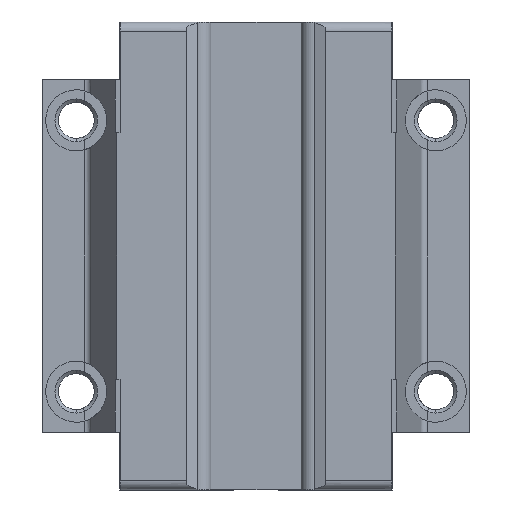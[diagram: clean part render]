
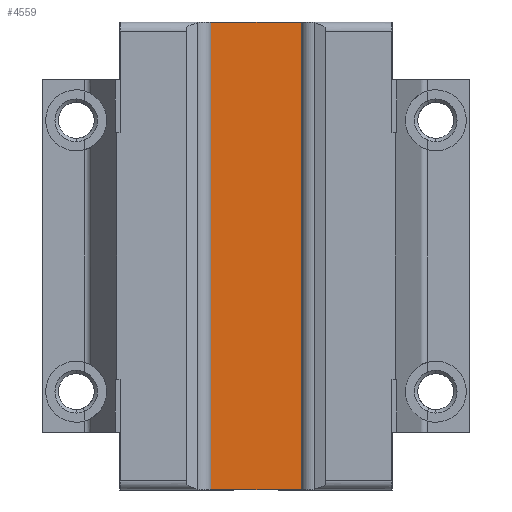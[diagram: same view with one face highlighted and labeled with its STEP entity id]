
A CAD part, front view. The second image highlights one B-rep face of the part: STEP entity #4559.
In plain terms, the highlighted planar face has unit normal (0, -1, 0).
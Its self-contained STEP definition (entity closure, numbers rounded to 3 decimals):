
#1187 = DIRECTION ( 'NONE',  ( 0., 0., 1. ) ) ;
#1208 = CARTESIAN_POINT ( 'NONE',  ( 7.255, -9.695, -34.5 ) ) ;
#1273 = DIRECTION ( 'NONE',  ( 0., 0., 1. ) ) ;
#1288 = CARTESIAN_POINT ( 'NONE',  ( -7.255, -9.695, -34.5 ) ) ;
#3170 = CARTESIAN_POINT ( 'NONE',  ( -7.255, -9.695, -34.45 ) ) ;
#3256 = CARTESIAN_POINT ( 'NONE',  ( 7.255, -9.695, -34.45 ) ) ;
#3518 = VERTEX_POINT ( 'NONE', #3170 ) ;
#3535 = VERTEX_POINT ( 'NONE', #3256 ) ;
#4073 = VERTEX_POINT ( 'NONE', #7333 ) ;
#4081 = VERTEX_POINT ( 'NONE', #7303 ) ;
#4559 = ADVANCED_FACE ( 'NONE', ( #5234 ), #8424, .F. ) ;
#5234 = FACE_OUTER_BOUND ( 'NONE', #12506, .T. ) ;
#6117 = EDGE_CURVE ( 'NONE', #4073, #4081, #15633, .T. ) ;
#6253 = EDGE_CURVE ( 'NONE', #3535, #3518, #15774, .T. ) ;
#6447 = EDGE_CURVE ( 'NONE', #3535, #4073, #16024, .T. ) ;
#6466 = EDGE_CURVE ( 'NONE', #3518, #4081, #15994, .T. ) ;
#6713 = AXIS2_PLACEMENT_3D ( 'NONE', #8395, #8408, #8431 ) ;
#7303 = CARTESIAN_POINT ( 'NONE',  ( -7.255, -9.695, 34.45 ) ) ;
#7333 = CARTESIAN_POINT ( 'NONE',  ( 7.255, -9.695, 34.45 ) ) ;
#8395 = CARTESIAN_POINT ( 'NONE',  ( 7.255, -9.695, -34.5 ) ) ;
#8408 = DIRECTION ( 'NONE',  ( 0., 1., 0. ) ) ;
#8424 = PLANE ( 'NONE',  #6713 ) ;
#8431 = DIRECTION ( 'NONE',  ( -1., 0., 0. ) ) ;
#12506 = EDGE_LOOP ( 'NONE', ( #13511, #13555, #13503, #13552 ) ) ;
#13503 = ORIENTED_EDGE ( 'NONE', *, *, #6466, .F. ) ;
#13511 = ORIENTED_EDGE ( 'NONE', *, *, #6447, .T. ) ;
#13552 = ORIENTED_EDGE ( 'NONE', *, *, #6253, .F. ) ;
#13555 = ORIENTED_EDGE ( 'NONE', *, *, #6117, .T. ) ;
#15633 = LINE ( 'NONE', #16402, #15647 ) ;
#15647 = VECTOR ( 'NONE', #16435, 1000. ) ;
#15753 = VECTOR ( 'NONE', #17034, 1000. ) ;
#15774 = LINE ( 'NONE', #17004, #15753 ) ;
#15989 = VECTOR ( 'NONE', #1273, 1000. ) ;
#15994 = LINE ( 'NONE', #1288, #15989 ) ;
#16006 = VECTOR ( 'NONE', #1187, 1000. ) ;
#16024 = LINE ( 'NONE', #1208, #16006 ) ;
#16402 = CARTESIAN_POINT ( 'NONE',  ( 7.255, -9.695, 34.45 ) ) ;
#16435 = DIRECTION ( 'NONE',  ( -1., 0., 0. ) ) ;
#17004 = CARTESIAN_POINT ( 'NONE',  ( -20.1, -9.695, -34.45 ) ) ;
#17034 = DIRECTION ( 'NONE',  ( -1., 0., 0. ) ) ;
